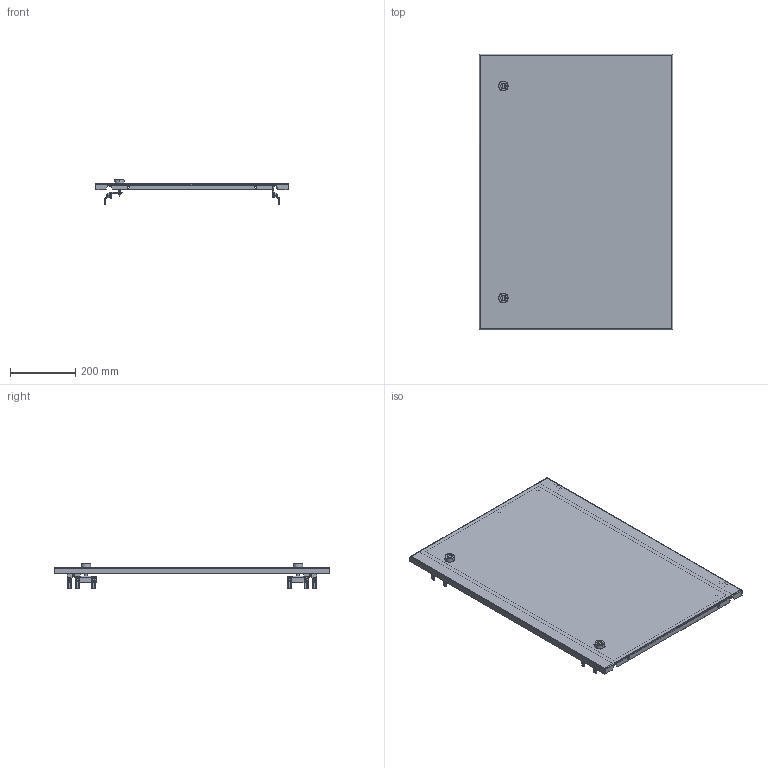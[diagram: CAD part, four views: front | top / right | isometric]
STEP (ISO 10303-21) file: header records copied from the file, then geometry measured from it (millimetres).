
FILE_DESCRIPTION(('CAx-IF Rec.Pracs.---Model Styling and Organization---1.2---2011-12-15','CAx-IF Rec.Pracs.---Geometric and Assembly Validation Properties---4.1---2014-06-16','CAx-IF Rec.Pracs.---PMI Polyline Presentation---2.0---2013-05-24'),'2;1');
FILE_NAME('R5CPMEM6850.stp','2021-05-06T03:55:15+03:00',(''),(''),'STEP Interface 4.4 by CT CoreTechnologie','3D_Evolution4.4 by CT CoreTechnologie','');
FILE_SCHEMA(('AUTOMOTIVE_DESIGN { 1 0 10303 214 1 1 1 1 }'));
Length unit declared in the file: millimetre
Products named in the file (18): R5CPMEM6850; M6 x 16-DIN 7991 ISR_thread; RB.0116.00.00.2_-00; M6 x 16-DIN 7991 ISR_stright; AC00C485; RB.0556.00.00.3 ÑÁ_-45; Ì6õ12-A5100231_thread; RB.0556.00.01.1_-45; AC00C061_AC00C061; Ì6õ12-A5100231_straight; AC00C266; PF 7x14 R5PKEB_0850x0600; AC00C745; MS737-1-1(1); MS737-1-1 Z_ ªàëâ; MS737-1-1 stop_fixed; MS737-1-1(2); RB.0687.00.00.1
Assembly tree (39 placements, depth 3):
  R5CPMEM6850
    M6 x 16-DIN 7991 ISR_thread  x4
    RB.0116.00.00.2_-00  x2
    M6 x 16-DIN 7991 ISR_stright  x4
    AC00C485  x8
    RB.0556.00.00.3 ÑÁ_-45
      Ì6õ12-A5100231_thread  x2
      RB.0556.00.01.1_-45
      AC00C061_AC00C061  x3
      Ì6õ12-A5100231_straight
      AC00C266  x2
      PF 7x14 R5PKEB_0850x0600
    AC00C745  x2
    MS737-1-1(1)
      MS737-1-1 Z_ ªàëâ
      MS737-1-1 stop_fixed
    MS737-1-1(2)
      MS737-1-1 stop_fixed
      MS737-1-1 Z_ ªàëâ
    RB.0687.00.00.1  x2
Bounding box: 594 x 845 x 77.95 mm (x, y, z)
Surface area: 1266780.2 mm2 (no closed solid volume)
Topology: 0 solids, 58 shells, 2316 faces, 6070 edges, 3856 vertices
Faces by surface type: bspline 860, cylinder 764, plane 692
Entity records: 35332 total; most frequent: CARTESIAN_POINT 11734, ORIENTED_EDGE 4942, DIRECTION 4594, EDGE_CURVE 2471, AXIS2_PLACEMENT_3D 1672, VERTEX_POINT 1596, VECTOR 1250, LINE 1250
